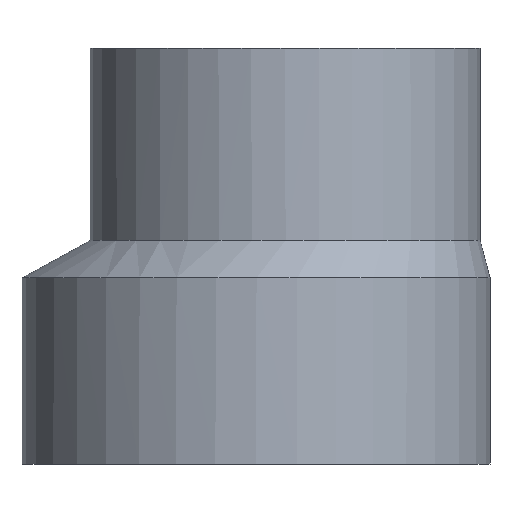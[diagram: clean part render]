
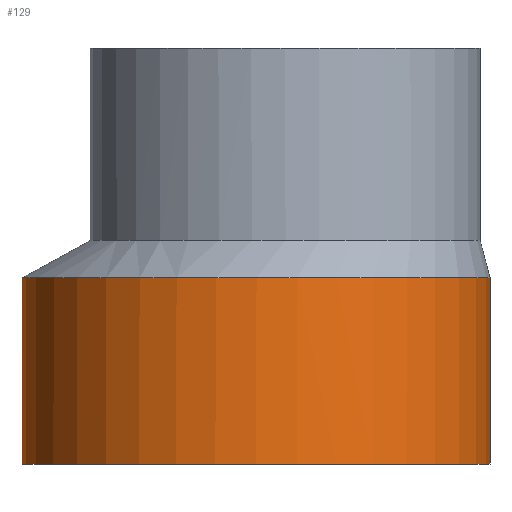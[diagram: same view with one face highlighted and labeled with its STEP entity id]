
A CAD part, front view. The second image highlights one B-rep face of the part: STEP entity #129.
In plain terms, the highlighted cylindrical face has radius 45 mm (diameter 90 mm), a full revolution.
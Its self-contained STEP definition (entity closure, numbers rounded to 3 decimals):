
#16=FACE_BOUND($,#39,.T.);
#24=CYLINDRICAL_SURFACE($,#148,45.);
#30=FACE_OUTER_BOUND($,#38,.T.);
#38=EDGE_LOOP($,(#104,#105));
#39=EDGE_LOOP($,(#106));
#56=CIRCLE($,#146,45.);
#57=CIRCLE($,#147,45.);
#58=CIRCLE($,#149,45.);
#68=VERTEX_POINT($,#249);
#69=VERTEX_POINT($,#252);
#70=VERTEX_POINT($,#256);
#82=EDGE_CURVE($,#69,#68,#56,.T.);
#83=EDGE_CURVE($,#68,#69,#57,.T.);
#84=EDGE_CURVE($,#70,#70,#58,.T.);
#104=ORIENTED_EDGE($,*,*,#82,.T.);
#105=ORIENTED_EDGE($,*,*,#83,.T.);
#106=ORIENTED_EDGE($,*,*,#84,.F.);
#129=ADVANCED_FACE($,(#30,#16),#24,.T.);
#146=AXIS2_PLACEMENT_3D($,#253,#176,#177);
#147=AXIS2_PLACEMENT_3D($,#254,#178,#179);
#148=AXIS2_PLACEMENT_3D($,#255,#180,#181);
#149=AXIS2_PLACEMENT_3D($,#257,#182,#183);
#176=DIRECTION('center_axis',(0.,0.,-1.));
#177=DIRECTION('ref_axis',(-1.,0.,0.));
#178=DIRECTION('center_axis',(0.,0.,-1.));
#179=DIRECTION('ref_axis',(-1.,0.,0.));
#180=DIRECTION('center_axis',(0.,0.,1.));
#181=DIRECTION('ref_axis',(-1.,0.,0.));
#182=DIRECTION('center_axis',(0.,0.,-1.));
#183=DIRECTION('ref_axis',(-1.,0.,0.));
#249=CARTESIAN_POINT('',(15.074,42.4,35.8));
#252=CARTESIAN_POINT('',(45.,0.,35.8));
#253=CARTESIAN_POINT('Origin',(0.,0.,35.8));
#254=CARTESIAN_POINT('Origin',(0.,0.,35.8));
#255=CARTESIAN_POINT('Origin',(0.,0.,0.));
#256=CARTESIAN_POINT('',(45.,0.,0.));
#257=CARTESIAN_POINT('Origin',(0.,0.,0.));
